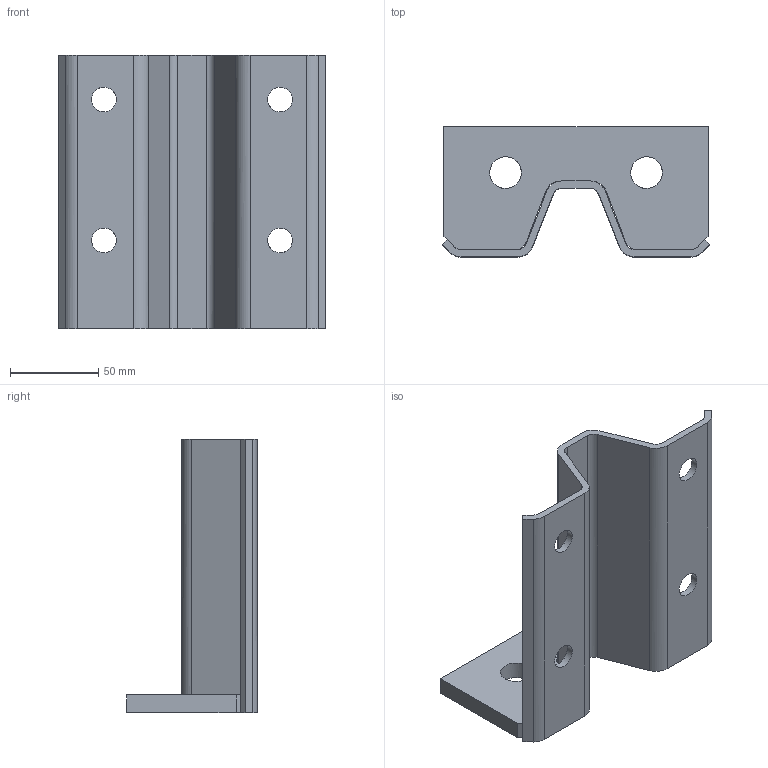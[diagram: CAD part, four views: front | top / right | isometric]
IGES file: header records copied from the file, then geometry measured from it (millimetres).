
Global section: file name: ZB170W80; native system: Autodesk RealDWG; preprocessor: Autodesk Translation Framework DWG producer (atf_dwg_producer); organization: unknown; date: 20230703.112407; units: centimetre
Bounding box: 151.72 x 74 x 155 mm (x, y, z)
Volume: 204354.1 mm3; surface area: 87144.7 mm2
Topology: 2 solids, 2 shells, 54 faces, 158 edges, 108 vertices
Faces by surface type: bspline 54
